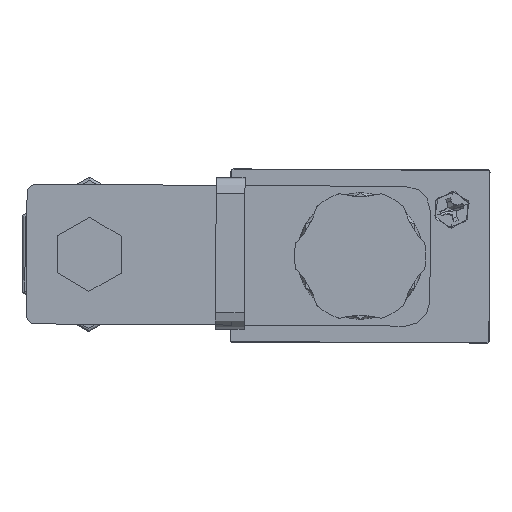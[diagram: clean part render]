
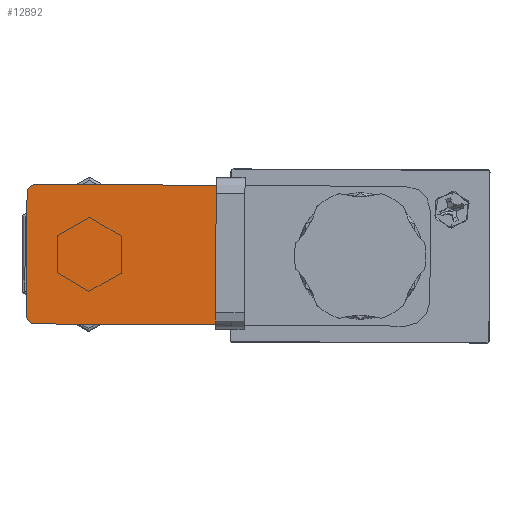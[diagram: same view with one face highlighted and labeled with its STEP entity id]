
A CAD part, left-side view. The second image highlights one B-rep face of the part: STEP entity #12892.
In plain terms, the highlighted planar face has unit normal (-1, 0, 0) as drawn and (1, 0, 0) by its records, which use the part's own axes.
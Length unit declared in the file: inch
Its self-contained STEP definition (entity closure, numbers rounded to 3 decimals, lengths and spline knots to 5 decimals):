
#1182 = AXIS2_PLACEMENT_3D ( 'NONE', #22785, #61600, #28413 ) ;
#1720 = AXIS2_PLACEMENT_3D ( 'NONE', #42131, #8984, #47721 ) ;
#1907 = VERTEX_POINT ( 'NONE', #44142 ) ;
#2767 = VERTEX_POINT ( 'NONE', #18890 ) ;
#3007 = VECTOR ( 'NONE', #27837, 39.37008 ) ;
#3189 = EDGE_CURVE ( 'NONE', #1907, #50686, #10313, .T. ) ;
#6764 = VERTEX_POINT ( 'NONE', #62821 ) ;
#6858 = VECTOR ( 'NONE', #22912, 39.37008 ) ;
#8984 = DIRECTION ( 'NONE',  ( 1., 0., 0. ) ) ;
#9062 = DIRECTION ( 'NONE',  ( -1., 0., 0. ) ) ;
#10313 = LINE ( 'NONE', #39249, #6858 ) ;
#12892 = ADVANCED_FACE ( 'NONE', ( #34142 ), #42205, .F. ) ;
#16909 = DIRECTION ( 'NONE',  ( 0., -1., 0. ) ) ;
#18589 = CARTESIAN_POINT ( 'NONE',  ( 0., 1.25, -0.4245 ) ) ;
#18715 = VECTOR ( 'NONE', #16909, 39.37008 ) ;
#18890 = CARTESIAN_POINT ( 'NONE',  ( 0., 1.25, 0.4245 ) ) ;
#20857 = CARTESIAN_POINT ( 'NONE',  ( 0., 0., 0.3745 ) ) ;
#22132 = CARTESIAN_POINT ( 'NONE',  ( 0., 0., 0.3745 ) ) ;
#22785 = CARTESIAN_POINT ( 'NONE',  ( 0., 0.05, -0.3745 ) ) ;
#22912 = DIRECTION ( 'NONE',  ( 0., 1., 0. ) ) ;
#26629 = EDGE_CURVE ( 'NONE', #44719, #50934, #43511, .T. ) ;
#26952 = VECTOR ( 'NONE', #59641, 39.37008 ) ;
#27592 = CARTESIAN_POINT ( 'NONE',  ( 0., 1.25, -0.4245 ) ) ;
#27837 = DIRECTION ( 'NONE',  ( 0., 0., 1. ) ) ;
#28413 = DIRECTION ( 'NONE',  ( 0., 0., 1. ) ) ;
#28989 = CIRCLE ( 'NONE', #1182, 0.05 ) ;
#30694 = LINE ( 'NONE', #27592, #3007 ) ;
#31027 = CARTESIAN_POINT ( 'NONE',  ( 0., 0.05, -0.3745 ) ) ;
#33183 = CARTESIAN_POINT ( 'NONE',  ( 0., 1.25, 0.4245 ) ) ;
#34142 = FACE_OUTER_BOUND ( 'NONE', #38324, .T. ) ;
#38324 = EDGE_LOOP ( 'NONE', ( #68560, #40760, #42021, #69543, #61167, #52592 ) ) ;
#39249 = CARTESIAN_POINT ( 'NONE',  ( 0., 0.05, -0.4245 ) ) ;
#40760 = ORIENTED_EDGE ( 'NONE', *, *, #3189, .T. ) ;
#41995 = CIRCLE ( 'NONE', #1720, 0.05 ) ;
#42021 = ORIENTED_EDGE ( 'NONE', *, *, #44045, .T. ) ;
#42131 = CARTESIAN_POINT ( 'NONE',  ( 0., 0.05, 0.3745 ) ) ;
#42205 = PLANE ( 'NONE',  #46280 ) ;
#43511 = LINE ( 'NONE', #20857, #26952 ) ;
#44045 = EDGE_CURVE ( 'NONE', #50686, #2767, #30694, .T. ) ;
#44142 = CARTESIAN_POINT ( 'NONE',  ( 0., 0.05, -0.4245 ) ) ;
#44719 = VERTEX_POINT ( 'NONE', #22132 ) ;
#46280 = AXIS2_PLACEMENT_3D ( 'NONE', #31027, #9062, #47793 ) ;
#47721 = DIRECTION ( 'NONE',  ( 0., 0., 1. ) ) ;
#47793 = DIRECTION ( 'NONE',  ( 0., 0., 1. ) ) ;
#48616 = EDGE_CURVE ( 'NONE', #2767, #6764, #64671, .T. ) ;
#50686 = VERTEX_POINT ( 'NONE', #18589 ) ;
#50934 = VERTEX_POINT ( 'NONE', #66055 ) ;
#51693 = EDGE_CURVE ( 'NONE', #50934, #1907, #28989, .T. ) ;
#52592 = ORIENTED_EDGE ( 'NONE', *, *, #26629, .T. ) ;
#59641 = DIRECTION ( 'NONE',  ( 0., 0., -1. ) ) ;
#61167 = ORIENTED_EDGE ( 'NONE', *, *, #61179, .T. ) ;
#61179 = EDGE_CURVE ( 'NONE', #6764, #44719, #41995, .T. ) ;
#61600 = DIRECTION ( 'NONE',  ( 1., 0., 0. ) ) ;
#62821 = CARTESIAN_POINT ( 'NONE',  ( 0., 0.05, 0.4245 ) ) ;
#64671 = LINE ( 'NONE', #33183, #18715 ) ;
#66055 = CARTESIAN_POINT ( 'NONE',  ( 0., 0., -0.3745 ) ) ;
#68560 = ORIENTED_EDGE ( 'NONE', *, *, #51693, .T. ) ;
#69543 = ORIENTED_EDGE ( 'NONE', *, *, #48616, .T. ) ;
